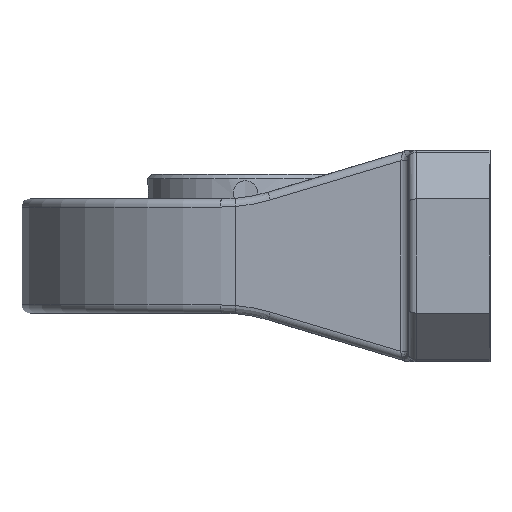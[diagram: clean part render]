
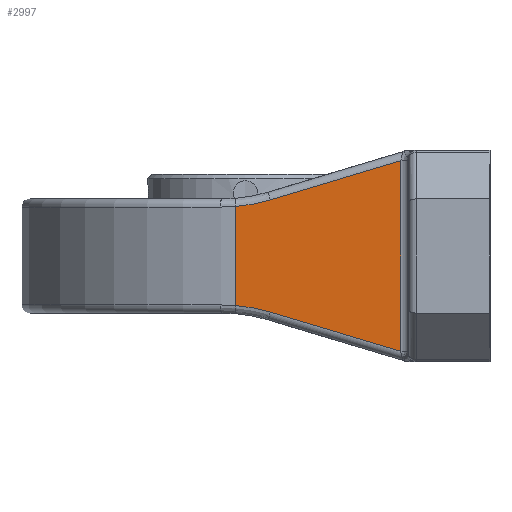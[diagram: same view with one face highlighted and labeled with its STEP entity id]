
A CAD part, left-side view. The second image highlights one B-rep face of the part: STEP entity #2997.
In plain terms, the highlighted planar face has unit normal (-0.999, 0.044, 0).
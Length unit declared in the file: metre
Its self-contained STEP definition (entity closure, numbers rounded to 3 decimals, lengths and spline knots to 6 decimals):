
#53=(
BOUNDED_CURVE()
B_SPLINE_CURVE(3,(#6084,#6085,#6086,#6087),.UNSPECIFIED.,.F.,.F.)
B_SPLINE_CURVE_WITH_KNOTS((4,4),(4.797227,5.003846),
 .UNSPECIFIED.)
CURVE()
GEOMETRIC_REPRESENTATION_ITEM()
RATIONAL_B_SPLINE_CURVE((1.,0.996,0.996,1.))
REPRESENTATION_ITEM('')
);
#54=(
BOUNDED_CURVE()
B_SPLINE_CURVE(3,(#6133,#6134,#6135,#6136),.UNSPECIFIED.,.F.,.F.)
B_SPLINE_CURVE_WITH_KNOTS((4,4),(1.27934,1.485958),
 .UNSPECIFIED.)
CURVE()
GEOMETRIC_REPRESENTATION_ITEM()
RATIONAL_B_SPLINE_CURVE((1.,0.996,0.996,1.))
REPRESENTATION_ITEM('')
);
#178=LINE('',#5885,#352);
#194=LINE('',#6099,#368);
#195=LINE('',#6101,#369);
#223=LINE('',#6644,#397);
#352=VECTOR('',#3813,1.);
#368=VECTOR('',#3873,1.);
#369=VECTOR('',#3876,1.);
#397=VECTOR('',#4052,1.);
#1162=ORIENTED_EDGE('',*,*,#1736,.T.);
#1163=ORIENTED_EDGE('',*,*,#1696,.T.);
#1164=ORIENTED_EDGE('',*,*,#1737,.T.);
#1165=ORIENTED_EDGE('',*,*,#1741,.T.);
#1166=ORIENTED_EDGE('',*,*,#1836,.T.);
#1167=ORIENTED_EDGE('',*,*,#1732,.T.);
#1696=EDGE_CURVE('',#2061,#2060,#178,.T.);
#1732=EDGE_CURVE('',#2081,#2083,#53,.T.);
#1736=EDGE_CURVE('',#2083,#2061,#194,.T.);
#1737=EDGE_CURVE('',#2060,#2085,#195,.T.);
#1741=EDGE_CURVE('',#2085,#2088,#54,.T.);
#1836=EDGE_CURVE('',#2088,#2081,#223,.T.);
#2060=VERTEX_POINT('',#5878);
#2061=VERTEX_POINT('',#5882);
#2081=VERTEX_POINT('',#6048);
#2083=VERTEX_POINT('',#6083);
#2085=VERTEX_POINT('',#6102);
#2088=VERTEX_POINT('',#6132);
#2484=EDGE_LOOP('',(#1162,#1163,#1164,#1165,#1166,#1167));
#2718=FACE_BOUND('',#2484,.T.);
#2820=PLANE('',#3352);
#2997=ADVANCED_FACE('',(#2718),#2820,.F.);
#3352=AXIS2_PLACEMENT_3D('',#6643,#4050,#4051);
#3813=DIRECTION('',(0.,0.,1.));
#3873=DIRECTION('',(-0.042,-0.957,-0.287));
#3876=DIRECTION('',(0.042,0.957,-0.287));
#4050=DIRECTION('',(0.999,-0.044,0.));
#4051=DIRECTION('',(-0.044,-0.999,0.));
#4052=DIRECTION('',(0.,0.,-1.));
#5878=CARTESIAN_POINT('',(-0.014179,-0.009522,0.005841));
#5882=CARTESIAN_POINT('',(-0.014179,-0.009522,-0.005841));
#5885=CARTESIAN_POINT('',(-0.014179,-0.009522,0.005985));
#6048=CARTESIAN_POINT('',(-0.013737,0.0006,-0.003038));
#6083=CARTESIAN_POINT('',(-0.01383,-0.001528,-0.003443));
#6084=CARTESIAN_POINT('',(-0.013737,0.0006,-0.003038));
#6085=CARTESIAN_POINT('',(-0.013768,-0.000122,-0.003099));
#6086=CARTESIAN_POINT('',(-0.0138,-0.000834,-0.003235));
#6087=CARTESIAN_POINT('',(-0.01383,-0.001528,-0.003443));
#6099=CARTESIAN_POINT('',(-0.01405,-0.00657,-0.004955));
#6101=CARTESIAN_POINT('',(-0.014206,-0.010142,0.006027));
#6102=CARTESIAN_POINT('',(-0.01383,-0.001528,0.003443));
#6132=CARTESIAN_POINT('',(-0.013737,0.0006,0.003038));
#6133=CARTESIAN_POINT('',(-0.01383,-0.001528,0.003443));
#6134=CARTESIAN_POINT('',(-0.0138,-0.000834,0.003235));
#6135=CARTESIAN_POINT('',(-0.013768,-0.000122,0.003099));
#6136=CARTESIAN_POINT('',(-0.013737,0.0006,0.003038));
#6643=CARTESIAN_POINT('',(-0.0142,-0.01,0.0065));
#6644=CARTESIAN_POINT('',(-0.013737,0.0006,0.00475));
